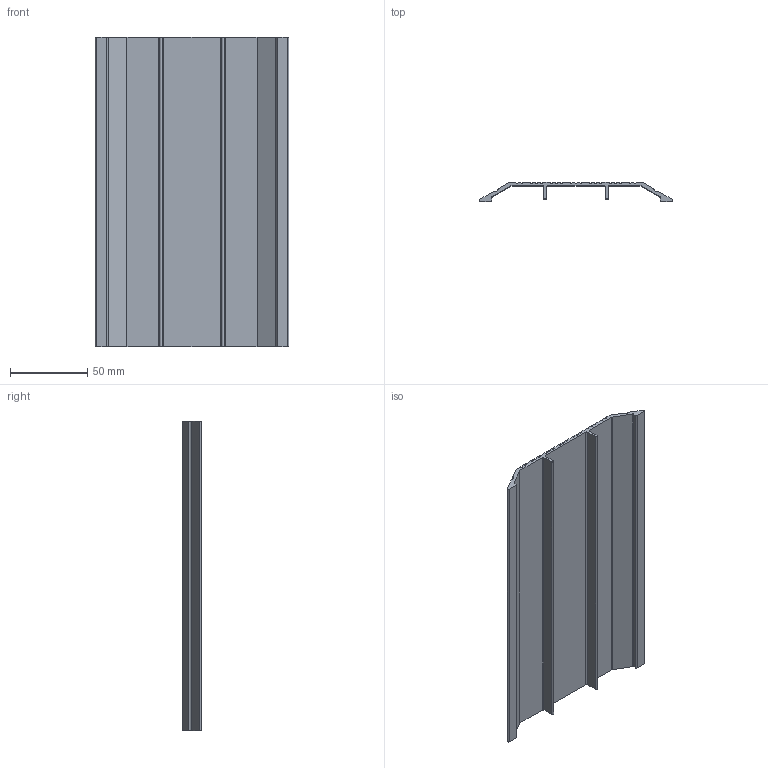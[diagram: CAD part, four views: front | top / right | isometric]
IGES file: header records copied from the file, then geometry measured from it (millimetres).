
Global section: file name: No Iges File Name specified; native system: Autodesk Inventor 2012; preprocessor: AutoDesk Inventor Iges Exporter R2012; author: anna.b; date: 20130614.100957; units: millimetre
Bounding box: 125 x 12.5 x 200 mm (x, y, z)
Volume: 66994.9 mm3; surface area: 64286.8 mm2
Topology: 1 solids, 1 shells, 74 faces, 216 edges, 144 vertices
Faces by surface type: plane 39, revolution 29, cylinder 6
